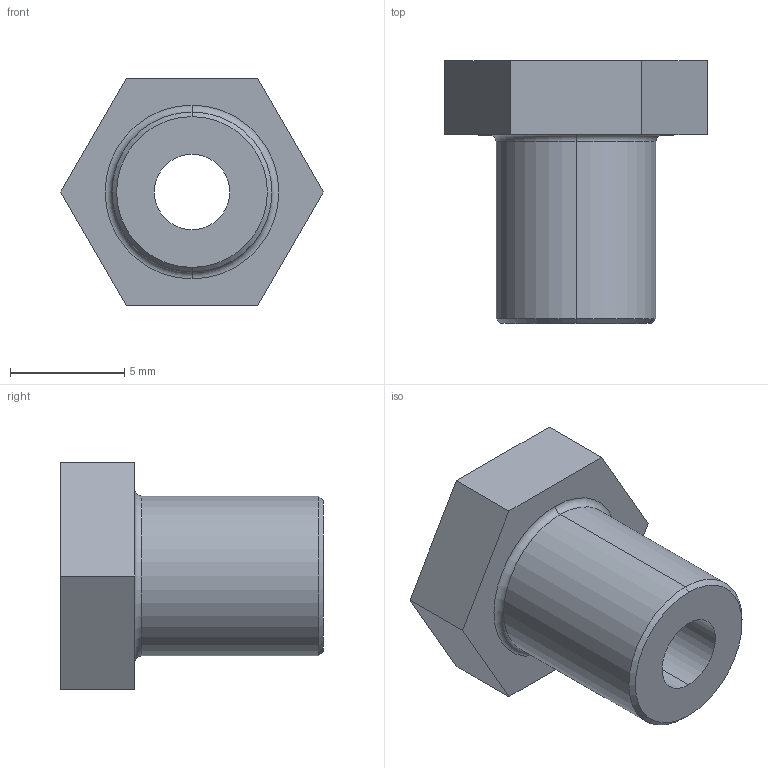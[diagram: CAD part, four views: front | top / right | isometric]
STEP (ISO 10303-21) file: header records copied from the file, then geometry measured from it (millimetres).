
FILE_DESCRIPTION (( 'STEP AP203' ), '1' );
FILE_NAME ('013.100.039.STEP', '2021-11-12T14:13:15', ( '' ), ( '' ), 'SwSTEP 2.0', 'SolidWorks 2018', '' );
FILE_SCHEMA (( 'CONFIG_CONTROL_DESIGN' ));
Length unit declared in the file: millimetre
Products named in the file (1): 013.100.039
Bounding box: 11.49 x 11.5 x 9.95 mm (x, y, z)
Volume: 481.9 mm3; surface area: 570.1 mm2
Topology: 1 solids, 1 shells, 20 faces, 44 edges, 28 vertices
Faces by surface type: plane 10, cylinder 6, torus 2, cone 2
Entity records: 635 total; most frequent: DIRECTION 104, CARTESIAN_POINT 93, ORIENTED_EDGE 88, EDGE_CURVE 44, AXIS2_PLACEMENT_3D 39, VERTEX_POINT 28, LINE 26, VECTOR 26
